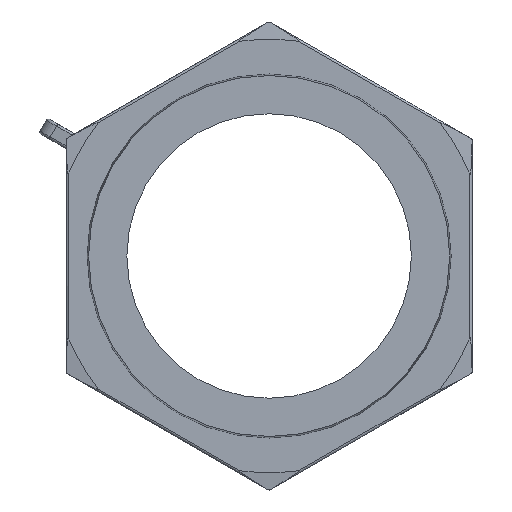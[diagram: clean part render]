
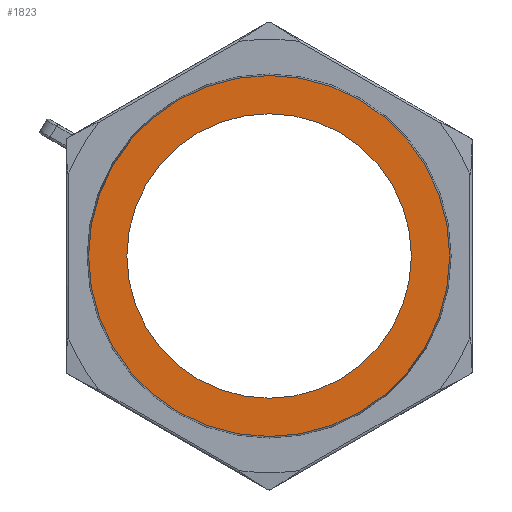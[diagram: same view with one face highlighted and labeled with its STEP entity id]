
A CAD part, left-side view. The second image highlights one B-rep face of the part: STEP entity #1823.
In plain terms, the highlighted planar face has unit normal (-1, 0, 0).
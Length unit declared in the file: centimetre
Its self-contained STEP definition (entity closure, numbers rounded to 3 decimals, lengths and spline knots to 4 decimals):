
#417=PLANE('',#2012);
#575=VERTEX_POINT('',#43652);
#581=VERTEX_POINT('',#43669);
#665=CIRCLE('',#2000,5.9303);
#671=CIRCLE('',#2011,4.6736);
#925=EDGE_CURVE('',#575,#575,#665,.T.);
#931=EDGE_CURVE('',#581,#581,#671,.T.);
#1450=ORIENTED_EDGE('',*,*,#925,.T.);
#1451=ORIENTED_EDGE('',*,*,#931,.T.);
#1580=EDGE_LOOP('',(#1450));
#1581=EDGE_LOOP('',(#1451));
#1710=FACE_BOUND('',#1580,.T.);
#1711=FACE_BOUND('',#1581,.T.);
#1823=ADVANCED_FACE('',(#1710,#1711),#417,.F.);
#2000=AXIS2_PLACEMENT_3D('',#43651,#2420,#2421);
#2011=AXIS2_PLACEMENT_3D('',#43668,#2440,#2441);
#2012=AXIS2_PLACEMENT_3D('',#43670,#2442,$);
#2420=DIRECTION('',(-1.,0.,0.));
#2421=DIRECTION('',(0.,0.,-5.93));
#2440=DIRECTION('',(1.,0.,0.));
#2441=DIRECTION('',(0.,0.,4.674));
#2442=DIRECTION('',(1.,0.,0.));
#43651=CARTESIAN_POINT('',(0.,0.,0.));
#43652=CARTESIAN_POINT('',(0.,0.,5.9303));
#43668=CARTESIAN_POINT('',(0.,0.,0.));
#43669=CARTESIAN_POINT('',(0.,0.,-4.6736));
#43670=CARTESIAN_POINT('',(0.,0.,0.));
